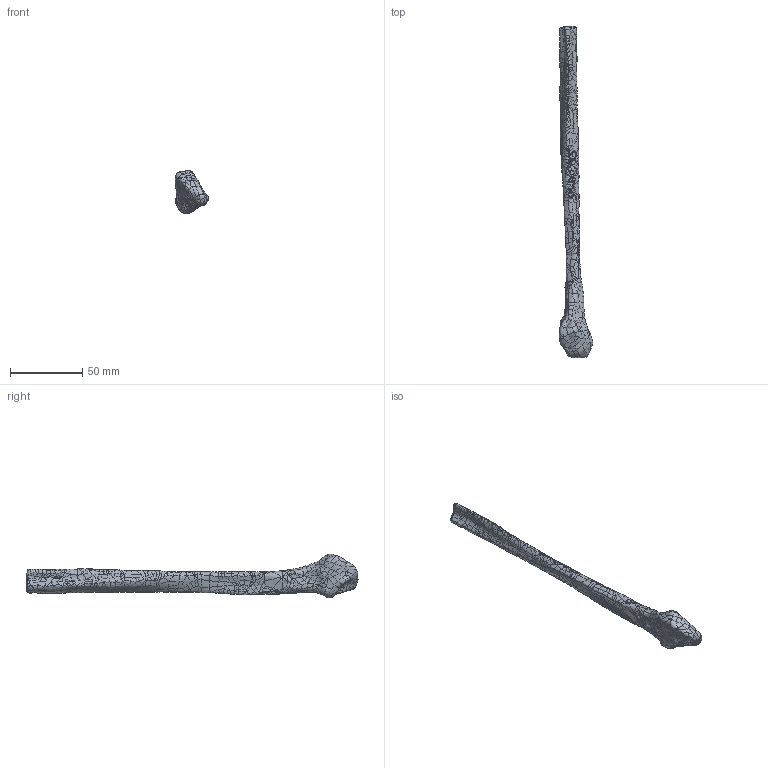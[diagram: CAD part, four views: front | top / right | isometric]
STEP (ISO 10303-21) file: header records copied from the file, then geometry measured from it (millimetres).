
FILE_DESCRIPTION (( 'STEP AP203' ), '1' );
FILE_NAME ('1127-1.STEP', '2026-07-27T18:26:38', ( '' ), ( '' ), 'SwSTEP 2.0', 'SolidWorks 2024', '' );
FILE_SCHEMA (( 'CONFIG_CONTROL_DESIGN' ));
Products named in the file (1): 1127-1
Bounding box: 23 x 229.61 x 30.16 mm (x, y, z)
Volume: 32322.7 mm3; surface area: 10638.8 mm2
Topology: 1 solids, 1 shells, 1566 faces, 3322 edges, 1759 vertices
Faces by surface type: bspline 1566
Entity records: 278300 total; most frequent: CARTESIAN_POINT 256903, ORIENTED_EDGE 6644, B_SPLINE_CURVE_WITH_KNOTS 3322, EDGE_CURVE 3322, VERTEX_POINT 1759, EDGE_LOOP 1567, FACE_OUTER_BOUND 1566, B_SPLINE_SURFACE_WITH_KNOTS 1566
